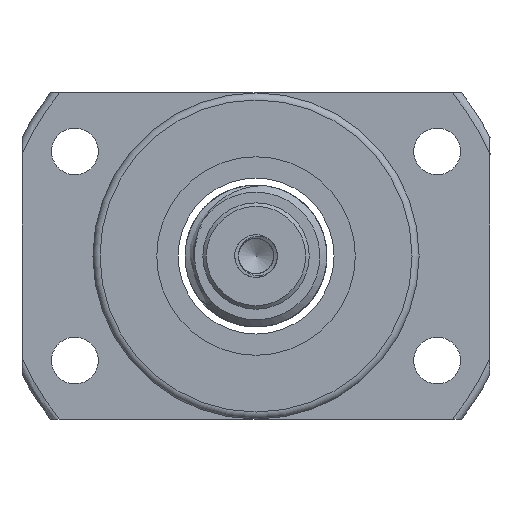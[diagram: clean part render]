
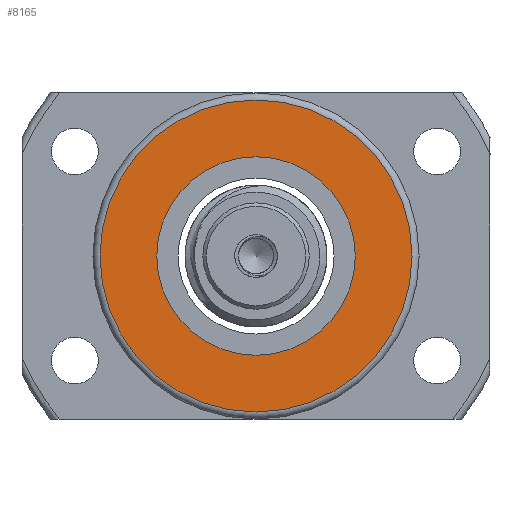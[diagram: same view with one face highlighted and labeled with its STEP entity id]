
A CAD part, left-side view. The second image highlights one B-rep face of the part: STEP entity #8165.
In plain terms, the highlighted planar face has unit normal (-1, 0, 0).
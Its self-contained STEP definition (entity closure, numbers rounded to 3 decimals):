
#747 = VERTEX_POINT ( 'NONE', #7260 ) ;
#1096 = DIRECTION ( 'NONE',  ( 1., 0., 0. ) ) ;
#1124 = EDGE_CURVE ( 'NONE', #747, #747, #4110, .T. ) ;
#1316 = DIRECTION ( 'NONE',  ( 0., 1., 0. ) ) ;
#1372 = DIRECTION ( 'NONE',  ( 1., 0., 0. ) ) ;
#1666 = EDGE_LOOP ( 'NONE', ( #14181 ) ) ;
#3266 = ORIENTED_EDGE ( 'NONE', *, *, #8191, .T. ) ;
#4110 = CIRCLE ( 'NONE', #4839, 22. ) ;
#4478 = FACE_OUTER_BOUND ( 'NONE', #1666, .T. ) ;
#4839 = AXIS2_PLACEMENT_3D ( 'NONE', #10735, #1372, #8292 ) ;
#5786 = DIRECTION ( 'NONE',  ( 0., -1., 0. ) ) ;
#6269 = EDGE_LOOP ( 'NONE', ( #3266 ) ) ;
#6938 = FACE_BOUND ( 'NONE', #6269, .T. ) ;
#7204 = AXIS2_PLACEMENT_3D ( 'NONE', #9162, #1096, #5786 ) ;
#7260 = CARTESIAN_POINT ( 'NONE',  ( -178.498, 22., 0. ) ) ;
#8158 = DIRECTION ( 'NONE',  ( 1., 0., 0. ) ) ;
#8165 = ADVANCED_FACE ( 'NONE', ( #6938, #4478 ), #11614, .F. ) ;
#8191 = EDGE_CURVE ( 'NONE', #10566, #10566, #8434, .T. ) ;
#8292 = DIRECTION ( 'NONE',  ( 0., 1., 0. ) ) ;
#8434 = CIRCLE ( 'NONE', #9180, 14. ) ;
#9162 = CARTESIAN_POINT ( 'NONE',  ( -178.498, 18., 0. ) ) ;
#9180 = AXIS2_PLACEMENT_3D ( 'NONE', #10461, #8158, #1316 ) ;
#10461 = CARTESIAN_POINT ( 'NONE',  ( -178.498, 0., 0. ) ) ;
#10566 = VERTEX_POINT ( 'NONE', #12950 ) ;
#10735 = CARTESIAN_POINT ( 'NONE',  ( -178.498, 0., 0. ) ) ;
#11614 = PLANE ( 'NONE',  #7204 ) ;
#12950 = CARTESIAN_POINT ( 'NONE',  ( -178.498, 14., 0. ) ) ;
#14181 = ORIENTED_EDGE ( 'NONE', *, *, #1124, .F. ) ;
